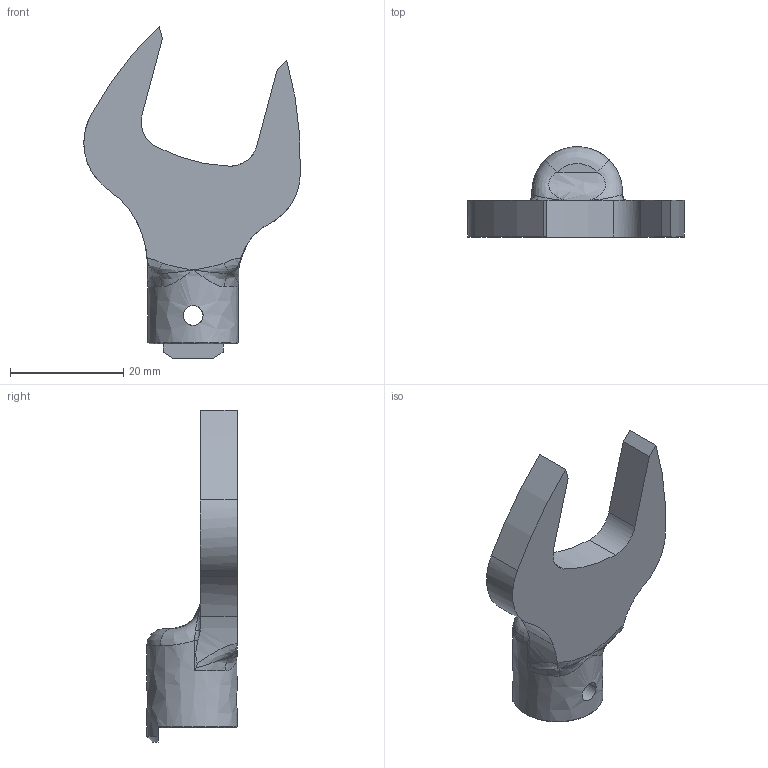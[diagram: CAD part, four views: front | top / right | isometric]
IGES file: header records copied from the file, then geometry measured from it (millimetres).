
Global section: file name: SH10DX21; native system: Autodesk Inventor 2016; preprocessor: unknown; author: Q600; date: 20151029.185319; units: millimetre
Bounding box: 38.22 x 16 x 58.65 mm (x, y, z)
Volume: 7221.6 mm3; surface area: 4199.5 mm2
Topology: 1 solids, 1 shells, 53 faces, 153 edges, 95 vertices
Faces by surface type: bspline 53
